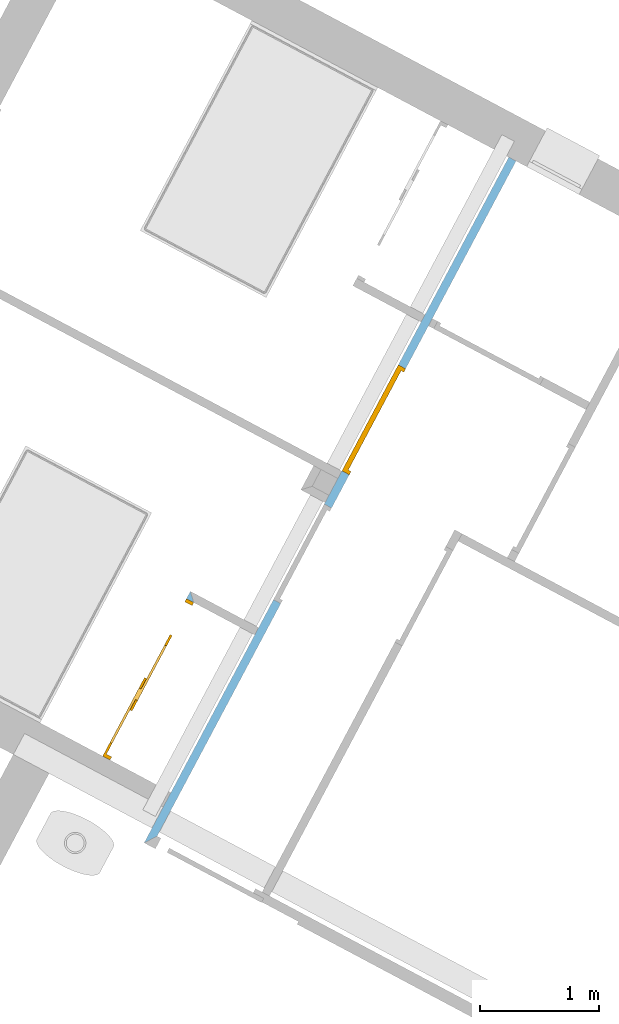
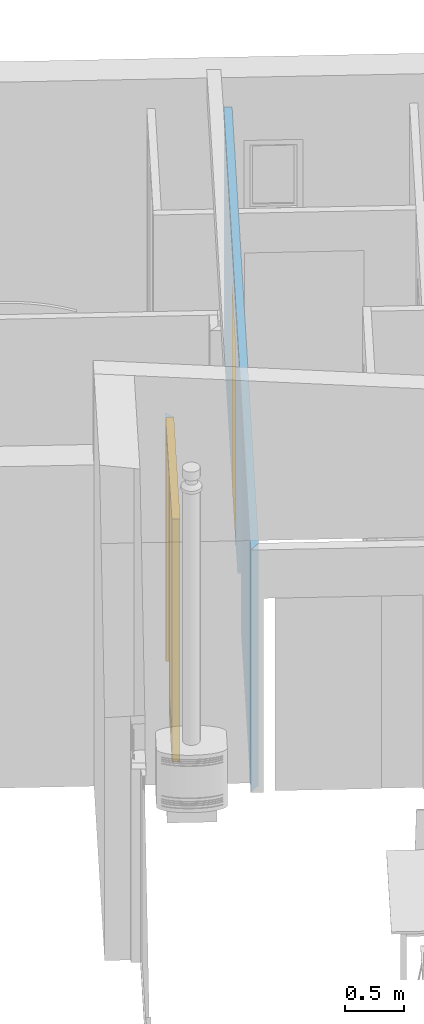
# One storey, part 14 of 27: 2 doors, 3 openings, plus 2 elements that do not belong to this part.
"""IFC2X3 building model written with IfcOpenShell, lengths in metres."""

from ifc_helpers import new_model, entity, si_unit, converted_unit, derived_unit, money_unit, direction, frame, origin_with_axes, origin_2d_with_axis, place, context, subcontext, project, spatial, polyline, rectangle, outline, extrude, open_shell, faceted_brep, surface_model, material, layer, layer_set, layer_usage, type_object, element, fill, save


model = new_model("IFC2X3")

# Units and contexts
model_context = context("Model", 3, precision=1e-05, world=origin_with_axes(), true_north=direction((0.0, 1.0)))
body_context = subcontext(model_context, "Body", "Model", "MODEL_VIEW")
ifc_project = project(units=[si_unit("LENGTHUNIT", "METRE"), si_unit("AREAUNIT", "SQUARE_METRE"), si_unit("VOLUMEUNIT", "CUBIC_METRE"), converted_unit("PLANEANGLEUNIT", "DEGREE", entity("IfcPlaneAngleMeasure", 0.0174532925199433), si_unit("PLANEANGLEUNIT", "RADIAN"), dimensions=[0, 0, 0, 0, 0, 0, 0]), money_unit("CHF"), converted_unit("TIMEUNIT", "Year", entity("IfcTimeMeasure", 31557600.0), si_unit("TIMEUNIT", "SECOND"), dimensions=[0, 0, 1, 0, 0, 0, 0]), si_unit("MASSUNIT", "GRAM", prefix="KILO"), si_unit("THERMODYNAMICTEMPERATUREUNIT", "DEGREE_CELSIUS"), si_unit("LUMINOUSINTENSITYUNIT", "LUMEN"), si_unit("ENERGYUNIT", "JOULE", prefix="MEGA"), derived_unit("THERMALCONDUCTANCEUNIT", [(si_unit("POWERUNIT", "WATT"), 1), (si_unit("LENGTHUNIT", "METRE"), -1), (si_unit("THERMODYNAMICTEMPERATUREUNIT", "KELVIN"), -1)]), derived_unit("SPECIFICHEATCAPACITYUNIT", [(si_unit("ENERGYUNIT", "JOULE"), 1), (si_unit("MASSUNIT", "GRAM", prefix="KILO"), -1), (si_unit("THERMODYNAMICTEMPERATUREUNIT", "KELVIN"), -1)]), derived_unit("MASSDENSITYUNIT", [(si_unit("MASSUNIT", "GRAM", prefix="KILO"), 1), (si_unit("VOLUMEUNIT", "CUBIC_METRE"), -1)])], contexts=[model_context])

# Site, building, storey
site_placement = place(None, frame((0.0, 0.0, 0.0), z_axis=(0.0, 0.0, 1.0), x_axis=(-0.4694715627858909, -0.8829475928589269, 0.0)))
site = spatial("IfcSite", under=ifc_project, at=site_placement, Name="Site", CompositionType="ELEMENT")
building_placement = place(site_placement, origin_with_axes())
building = spatial("IfcBuilding", under=site, at=building_placement, Name="Bâtiment", CompositionType="ELEMENT")
storey_placement = place(building_placement, origin_with_axes())
storey = spatial("IfcBuildingStorey", under=building, at=storey_placement, Name="RDC", CompositionType="ELEMENT", Elevation=0.0)

# Wall, openings, door
ifc_material = material(Name="Isolation 269295175")
ifc_layer = layer(ifc_material, 0.07, ventilated="UNKNOWN")
ifc_layer_set = layer_set([ifc_layer], Name="CLOISON 7 0024849982")
ifc_layer_usage_1 = layer_usage(ifc_layer_set, "AXIS2", "NEGATIVE", 0.0)
wall_type = type_object("IfcWallType", Name="CLOISON 7 0024849982 70", PredefinedType="NOTDEFINED")
wall_1_placement = place(storey_placement, frame((127.4995710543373, -835.8045991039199, 0.0), z_axis=(0.0, 0.0, 1.0), x_axis=(1.0, 0.0, 0.0)))
wall_1 = element("IfcWallStandardCase", 1, at=wall_1_placement, inside=storey, type_object=wall_type, material=ifc_layer_usage_1, Name="Mur-395", context=body_context, shape_type="SweptSolid", body=[
    extrude(outline(polyline([(0.0, -0.07000000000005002), (6.530000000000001, -0.07000000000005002), (6.430000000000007, 0.0), (0.0, 0.0), (0.0, -0.07000000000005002)])), origin_with_axes(), (0.0, 0.0, 1.0), 2.5),
])
opening_1_placement = place(wall_1_placement, frame((3.759272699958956, 0.0, 0.0), z_axis=(0.0, 0.0, 1.0), x_axis=(1.0, 0.0, 0.0)))
element("IfcOpeningElement", 2, at=opening_1_placement, cuts=wall_1, Name="porte 76", context=body_context, shape_type="SweptSolid", body=[
    extrude(rectangle(XDim=0.910000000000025, YDim=2.09, at=origin_2d_with_axis()), frame((0.0, 0.07000000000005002, 1.045), z_axis=(0.0, -1.0, 0.0), x_axis=(-1.0, 0.0, 0.0)), (0.0, 0.0, 1.0), 0.21),
])
opening_2_placement = place(wall_1_placement, frame((2.483017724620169, 0.0, 0.0), z_axis=(0.0, 0.0, 1.0), x_axis=(1.0, 0.0, 0.0)))
opening_2 = element("IfcOpeningElement", 3, at=opening_2_placement, cuts=wall_1, Name="porte 77", context=body_context, shape_type="SweptSolid", body=[
    extrude(rectangle(XDim=1.009999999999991, YDim=2.09, at=origin_2d_with_axis()), frame((0.0, 0.07000000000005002, 1.045), z_axis=(0.0, 1.0, 0.0), x_axis=(1.0, 0.0, 0.0)), (0.0, 0.0, -1.0), 0.21),
])
door_style_1 = type_object("IfcDoorStyle", Name="P_int simple à carreaux 10", ConstructionType="NOTDEFINED", OperationType="SINGLE_SWING_LEFT", ParameterTakesPrecedence=False, Sizeable=False)
door_1_placement = place(opening_2_placement, frame((0.5049999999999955, 0.0, 0.0), z_axis=(0.0, 0.0, 1.0), x_axis=(-1.0, 0.0, 0.0)))
door_1 = element("IfcDoor", 4, at=door_1_placement, inside=storey, type_object=door_style_1, Name="porte 77", OverallHeight=2.09, OverallWidth=1.01, context=body_context, shape_type="Brep", body=[
    faceted_brep([(0.9780000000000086, 0.0260000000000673, 0.0), (0.9780000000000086, 0.0, 0.0), (0.9780000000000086, 0.0, 2.058), (0.9780000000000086, 0.0260000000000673, 2.058), (0.9900000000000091, 0.0260000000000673, 0.0), (0.9900000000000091, 0.07000000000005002, 0.0), (1.009999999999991, 0.07000000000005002, 0.0), (1.009999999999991, 0.0, 0.0), (1.009999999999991, 0.0, 2.058), (0.9900000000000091, 0.0260000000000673, 2.058), (1.009999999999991, 0.07000000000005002, 2.058), (0.9900000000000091, 0.07000000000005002, 2.058)], [[[0, 1, 2, 3]], [[4, 5, 6, 7, 1, 0]], [[2, 1, 7, 8]], [[9, 3, 2, 8, 10, 11]], [[9, 4, 0, 3]], [[11, 5, 4, 9]], [[11, 10, 6, 5]], [[6, 10, 8, 7]]]),
    faceted_brep([(0.01999999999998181, 0.0260000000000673, 2.058), (0.01999999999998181, 0.07000000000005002, 2.058), (0.0, 0.07000000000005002, 2.058), (0.0, 0.0, 2.058), (0.03199999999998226, 0.0, 2.058), (0.03199999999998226, 0.0260000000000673, 2.058), (0.01999999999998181, 0.0260000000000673, 0.0), (0.01999999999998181, 0.07000000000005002, 0.0), (0.0, 0.07000000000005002, 0.0), (0.0, 0.0, 0.0), (0.03199999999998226, 0.0, 0.0), (0.03199999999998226, 0.0260000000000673, 0.0)], [[[0, 1, 2, 3, 4, 5]], [[0, 6, 7, 1]], [[7, 8, 2, 1]], [[2, 8, 9, 3]], [[3, 9, 10, 4]], [[5, 4, 10, 11]], [[5, 11, 6, 0]], [[6, 11, 10, 9, 8, 7]]]),
    faceted_brep([(0.9900000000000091, 0.07000000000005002, 2.07), (0.01999999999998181, 0.07000000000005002, 2.07), (0.01999999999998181, 0.07000000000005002, 2.058), (0.0, 0.07000000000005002, 2.058), (0.0, 0.07000000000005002, 2.09), (1.009999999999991, 0.07000000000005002, 2.09), (1.009999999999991, 0.07000000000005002, 2.058), (0.9900000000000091, 0.07000000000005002, 2.058), (0.9900000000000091, 0.0260000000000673, 2.07), (0.01999999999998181, 0.0260000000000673, 2.07), (0.01999999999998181, 0.0260000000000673, 2.058), (0.03199999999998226, 0.0260000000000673, 2.058), (0.03199999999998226, 0.0, 2.058), (0.0, 0.0, 2.058), (0.0, 0.0, 2.09), (1.009999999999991, 0.0, 2.09), (1.009999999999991, 0.0, 2.058), (0.9900000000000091, 0.0260000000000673, 2.058), (0.9780000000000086, 0.0, 2.058), (0.9780000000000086, 0.0260000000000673, 2.058)], [[[0, 1, 2, 3, 4, 5, 6, 7]], [[0, 8, 9, 1]], [[1, 9, 10, 2]], [[10, 11, 12, 13, 3, 2]], [[4, 3, 13, 14]], [[5, 4, 14, 15]], [[6, 5, 15, 16]], [[17, 7, 6, 16, 18, 19]], [[7, 17, 8, 0]], [[10, 9, 8, 17, 19, 11]], [[19, 18, 12, 11]], [[12, 18, 16, 15, 14, 13]]]),
    faceted_brep([(0.6049999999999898, 0.0260000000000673, 0.0), (0.9900000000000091, 0.0260000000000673, 0.0), (0.9900000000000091, 0.0260000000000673, 2.07), (0.6049999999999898, 0.0260000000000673, 2.07), (0.6049999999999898, 0.07000000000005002, 0.0), (0.9900000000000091, 0.07000000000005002, 0.0), (0.9900000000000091, 0.07000000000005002, 2.07), (0.6049999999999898, 0.07000000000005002, 2.07)], [[[0, 1, 2, 3]], [[4, 5, 1, 0]], [[1, 5, 6, 2]], [[3, 2, 6, 7]], [[7, 4, 0, 3]], [[7, 6, 5, 4]]]),
    faceted_brep([(0.4050000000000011, 0.07000000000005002, 2.07), (0.01999999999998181, 0.07000000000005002, 2.07), (0.01999999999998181, 0.0260000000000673, 2.07), (0.4050000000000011, 0.0260000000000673, 2.07), (0.4050000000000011, 0.07000000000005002, 0.0), (0.01999999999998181, 0.07000000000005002, 0.0), (0.01999999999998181, 0.0260000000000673, 0.0), (0.4050000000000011, 0.0260000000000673, 0.0)], [[[0, 1, 2, 3]], [[4, 5, 1, 0]], [[2, 1, 5, 6]], [[3, 2, 6, 7]], [[7, 4, 0, 3]], [[7, 6, 5, 4]]]),
    faceted_brep([(0.6049999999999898, 0.07000000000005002, 1.87), (0.6049999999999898, 0.07000000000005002, 2.07), (0.6049999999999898, 0.0260000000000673, 2.07), (0.6049999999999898, 0.0260000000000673, 1.87), (0.4050000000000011, 0.07000000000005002, 1.87), (0.4050000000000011, 0.07000000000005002, 2.07), (0.4050000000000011, 0.0260000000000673, 2.07), (0.4050000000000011, 0.0260000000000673, 1.87)], [[[0, 1, 2, 3]], [[0, 4, 5, 1]], [[1, 5, 6, 2]], [[3, 2, 6, 7]], [[4, 0, 3, 7]], [[5, 4, 7, 6]]]),
    faceted_brep([(0.6049999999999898, 0.07000000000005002, 1.67), (0.6049999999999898, 0.07000000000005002, 1.87), (0.6049999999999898, 0.0260000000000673, 1.87), (0.6049999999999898, 0.0260000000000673, 1.67), (0.4050000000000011, 0.07000000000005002, 1.67), (0.4050000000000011, 0.07000000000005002, 1.87), (0.4050000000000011, 0.0260000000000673, 1.87), (0.4050000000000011, 0.0260000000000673, 1.67)], [[[0, 1, 2, 3]], [[0, 4, 5, 1]], [[1, 5, 6, 2]], [[3, 2, 6, 7]], [[4, 0, 3, 7]], [[5, 4, 7, 6]]]),
    faceted_brep([(0.6049999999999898, 0.07000000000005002, 1.47), (0.6049999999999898, 0.07000000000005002, 1.67), (0.6049999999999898, 0.0260000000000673, 1.67), (0.6049999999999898, 0.0260000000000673, 1.47), (0.4050000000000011, 0.07000000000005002, 1.47), (0.4050000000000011, 0.07000000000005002, 1.67), (0.4050000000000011, 0.0260000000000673, 1.67), (0.4050000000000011, 0.0260000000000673, 1.47)], [[[0, 1, 2, 3]], [[0, 4, 5, 1]], [[1, 5, 6, 2]], [[3, 2, 6, 7]], [[4, 0, 3, 7]], [[5, 4, 7, 6]]]),
    faceted_brep([(0.6049999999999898, 0.07000000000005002, 1.27), (0.6049999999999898, 0.07000000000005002, 1.47), (0.6049999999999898, 0.0260000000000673, 1.47), (0.6049999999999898, 0.0260000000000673, 1.27), (0.4050000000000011, 0.07000000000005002, 1.27), (0.4050000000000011, 0.07000000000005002, 1.47), (0.4050000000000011, 0.0260000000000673, 1.47), (0.4050000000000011, 0.0260000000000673, 1.27)], [[[0, 1, 2, 3]], [[0, 4, 5, 1]], [[1, 5, 6, 2]], [[3, 2, 6, 7]], [[4, 0, 3, 7]], [[5, 4, 7, 6]]]),
    faceted_brep([(0.6049999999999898, 0.07000000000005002, 1.07), (0.6049999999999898, 0.07000000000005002, 1.27), (0.6049999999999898, 0.0260000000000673, 1.27), (0.6049999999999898, 0.0260000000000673, 1.07), (0.4050000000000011, 0.07000000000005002, 1.07), (0.4050000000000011, 0.07000000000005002, 1.27), (0.4050000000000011, 0.0260000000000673, 1.27), (0.4050000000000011, 0.0260000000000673, 1.07)], [[[0, 1, 2, 3]], [[0, 4, 5, 1]], [[1, 5, 6, 2]], [[3, 2, 6, 7]], [[4, 0, 3, 7]], [[5, 4, 7, 6]]]),
    faceted_brep([(0.6049999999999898, 0.07000000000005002, 0.8700000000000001), (0.6049999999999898, 0.07000000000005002, 1.07), (0.6049999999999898, 0.0260000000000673, 1.07), (0.6049999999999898, 0.0260000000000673, 0.8700000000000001), (0.4050000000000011, 0.07000000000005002, 0.8700000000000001), (0.4050000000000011, 0.07000000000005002, 1.07), (0.4050000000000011, 0.0260000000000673, 1.07), (0.4050000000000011, 0.0260000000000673, 0.8700000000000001)], [[[0, 1, 2, 3]], [[0, 4, 5, 1]], [[1, 5, 6, 2]], [[3, 2, 6, 7]], [[4, 0, 3, 7]], [[5, 4, 7, 6]]]),
    faceted_brep([(0.6049999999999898, 0.07000000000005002, 0.6700000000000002), (0.6049999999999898, 0.07000000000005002, 0.8700000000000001), (0.6049999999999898, 0.0260000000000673, 0.8700000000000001), (0.6049999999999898, 0.0260000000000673, 0.6700000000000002), (0.4050000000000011, 0.07000000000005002, 0.6700000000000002), (0.4050000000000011, 0.07000000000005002, 0.8700000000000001), (0.4050000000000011, 0.0260000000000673, 0.8700000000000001), (0.4050000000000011, 0.0260000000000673, 0.6700000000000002)], [[[0, 1, 2, 3]], [[0, 4, 5, 1]], [[1, 5, 6, 2]], [[3, 2, 6, 7]], [[4, 0, 3, 7]], [[5, 4, 7, 6]]]),
    faceted_brep([(0.6049999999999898, 0.07000000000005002, 0.4700000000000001), (0.6049999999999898, 0.07000000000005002, 0.6700000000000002), (0.6049999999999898, 0.0260000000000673, 0.6700000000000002), (0.6049999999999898, 0.0260000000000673, 0.4700000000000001), (0.4050000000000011, 0.07000000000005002, 0.4700000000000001), (0.4050000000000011, 0.07000000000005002, 0.6700000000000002), (0.4050000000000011, 0.0260000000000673, 0.6700000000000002), (0.4050000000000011, 0.0260000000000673, 0.4700000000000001)], [[[0, 1, 2, 3]], [[0, 4, 5, 1]], [[1, 5, 6, 2]], [[3, 2, 6, 7]], [[4, 0, 3, 7]], [[5, 4, 7, 6]]]),
    faceted_brep([(0.6049999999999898, 0.07000000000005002, 0.2700000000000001), (0.6049999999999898, 0.07000000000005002, 0.4700000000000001), (0.6049999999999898, 0.0260000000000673, 0.4700000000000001), (0.6049999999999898, 0.0260000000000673, 0.2700000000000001), (0.4050000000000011, 0.07000000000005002, 0.2700000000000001), (0.4050000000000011, 0.07000000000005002, 0.4700000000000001), (0.4050000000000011, 0.0260000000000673, 0.4700000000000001), (0.4050000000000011, 0.0260000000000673, 0.2700000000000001)], [[[0, 1, 2, 3]], [[0, 4, 5, 1]], [[1, 5, 6, 2]], [[3, 2, 6, 7]], [[4, 0, 3, 7]], [[5, 4, 7, 6]]]),
    faceted_brep([(0.6049999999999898, 0.07000000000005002, 0.07000000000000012), (0.6049999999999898, 0.07000000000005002, 0.2700000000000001), (0.6049999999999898, 0.0260000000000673, 0.2700000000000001), (0.6049999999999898, 0.0260000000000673, 0.07000000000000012), (0.4050000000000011, 0.07000000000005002, 0.07000000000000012), (0.4050000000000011, 0.07000000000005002, 0.2700000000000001), (0.4050000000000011, 0.0260000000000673, 0.2700000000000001), (0.4050000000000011, 0.0260000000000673, 0.07000000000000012)], [[[0, 1, 2, 3]], [[0, 4, 5, 1]], [[1, 5, 6, 2]], [[3, 2, 6, 7]], [[4, 0, 3, 7]], [[5, 4, 7, 6]]]),
    faceted_brep([(0.6049999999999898, 0.0260000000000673, 0.0), (0.6049999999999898, 0.0260000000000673, 0.07000000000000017), (0.4050000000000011, 0.0260000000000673, 0.07000000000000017), (0.4050000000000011, 0.0260000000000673, 0.0), (0.6049999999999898, 0.07000000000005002, 0.0), (0.6049999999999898, 0.07000000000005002, 0.07000000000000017), (0.4050000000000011, 0.07000000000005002, 0.07000000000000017), (0.4050000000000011, 0.07000000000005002, 0.0)], [[[0, 1, 2, 3]], [[4, 5, 1, 0]], [[1, 5, 6, 2]], [[3, 2, 6, 7]], [[7, 4, 0, 3]], [[7, 6, 5, 4]]]),
])
fill(opening_2, door_1)

# Wall, opening, door
ifc_layer_usage_2 = layer_usage(ifc_layer_set, "AXIS2", "NEGATIVE", 0.0)
wall_2_placement = place(storey_placement, frame((132.0495710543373, -836.4545991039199, 0.0), z_axis=(0.0, 0.0, 1.0), x_axis=(1.0, 0.0, 0.0)))
wall_2 = element("IfcWallStandardCase", 5, at=wall_2_placement, inside=storey, type_object=wall_type, material=ifc_layer_usage_2, Name="Mur-396", context=body_context, shape_type="SweptSolid", body=[
    extrude(outline(polyline([(-0.06999999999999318, -0.07000000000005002), (1.5, -0.07000000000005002), (1.5, 0.0), (0.0, 0.0), (-0.06999999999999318, -0.07000000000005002)])), origin_with_axes(), (0.0, 0.0, 1.0), 2.5),
])
opening_3_placement = place(wall_2_placement, frame((0.75, 0.0, 0.0), z_axis=(0.0, 0.0, 1.0), x_axis=(1.0, 0.0, 0.0)))
opening_3 = element("IfcOpeningElement", 6, at=opening_3_placement, cuts=wall_2, Name="porte 77", context=body_context, shape_type="SweptSolid", body=[
    extrude(rectangle(XDim=1.5, YDim=2.5, at=origin_2d_with_axis()), frame((0.0, -0.07000000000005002, 1.25), z_axis=(0.0, 1.0, 0.0), x_axis=(1.0, 0.0, 0.0)), (0.0, 0.0, 1.0), 0.21),
])
door_style_2 = type_object("IfcDoorStyle", Name="P_double coul 1 10", ConstructionType="NOTDEFINED", OperationType="SLIDING_TO_RIGHT", ParameterTakesPrecedence=False, Sizeable=False)
door_2_placement = place(opening_3_placement, frame((-0.7500000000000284, 0.0, 0.0), z_axis=(0.0, 0.0, 1.0), x_axis=(1.0, 0.0, 0.0)))
door_2 = element("IfcDoor", 7, at=door_2_placement, inside=storey, type_object=door_style_2, Name="porte 77", OverallHeight=2.5, OverallWidth=1.5, context=body_context, shape_type="SurfaceModel", body=[
    faceted_brep([(0.03000000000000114, -0.07000000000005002, 0.0), (0.03000000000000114, 0.0, 0.0), (0.03000000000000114, 0.0, 2.47), (0.03000000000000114, -0.07000000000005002, 2.47), (0.0, -0.07000000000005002, 0.0), (0.0, 0.0, 0.0), (0.0, 0.0, 2.47), (0.0, -0.07000000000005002, 2.47)], [[[0, 1, 2, 3]], [[4, 5, 1, 0]], [[1, 5, 6, 2]], [[3, 2, 6, 7]], [[0, 3, 7, 4]], [[7, 6, 5, 4]]]),
    faceted_brep([(1.5, -0.07000000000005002, 0.0), (1.5, 0.0, 0.0), (1.5, 0.0, 2.47), (1.5, -0.07000000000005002, 2.47), (1.469999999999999, -0.07000000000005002, 0.0), (1.469999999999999, 0.0, 0.0), (1.469999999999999, 0.0, 2.47), (1.469999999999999, -0.07000000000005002, 2.47)], [[[0, 1, 2, 3]], [[4, 5, 1, 0]], [[1, 5, 6, 2]], [[3, 2, 6, 7]], [[0, 3, 7, 4]], [[7, 6, 5, 4]]]),
    faceted_brep([(0.0, -0.07000000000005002, 2.5), (0.0, 0.0, 2.5), (0.0, 0.0, 2.47), (0.0, -0.07000000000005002, 2.47), (1.5, -0.07000000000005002, 2.5), (1.5, 0.0, 2.5), (1.5, 0.0, 2.47), (1.469999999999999, 0.0, 2.47), (0.03000000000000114, 0.0, 2.47), (0.03000000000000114, -0.07000000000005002, 2.47), (1.469999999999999, -0.07000000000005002, 2.47), (1.5, -0.07000000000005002, 2.47)], [[[0, 1, 2, 3]], [[4, 5, 1, 0]], [[1, 5, 6, 7, 8, 2]], [[3, 2, 8, 9]], [[0, 3, 9, 10, 11, 4]], [[11, 6, 5, 4]], [[10, 7, 6, 11]], [[9, 8, 7, 10]]]),
    faceted_brep([(1.469999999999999, -0.07000000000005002, 0.2), (1.370000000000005, -0.07000000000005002, 0.2), (1.370000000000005, -0.04999999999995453, 0.2), (1.469999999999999, -0.04999999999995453, 0.2), (1.469999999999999, -0.07000000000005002, 2.37), (1.370000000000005, -0.07000000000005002, 2.37), (1.370000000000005, -0.04999999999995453, 2.37), (1.469999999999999, -0.04999999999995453, 2.37)], [[[0, 1, 2, 3]], [[0, 4, 5, 1]], [[1, 5, 6, 2]], [[3, 2, 6, 7]], [[4, 0, 3, 7]], [[5, 4, 7, 6]]]),
    faceted_brep([(0.75, -0.07000000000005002, 0.2), (0.75, -0.07000000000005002, 2.37), (0.75, -0.04999999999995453, 2.37), (0.75, -0.04999999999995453, 0.2), (0.8499999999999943, -0.07000000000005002, 0.2), (0.8499999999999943, -0.07000000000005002, 2.37), (0.8499999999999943, -0.04999999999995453, 2.37), (0.8499999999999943, -0.04999999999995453, 0.2)], [[[0, 1, 2, 3]], [[0, 4, 5, 1]], [[1, 5, 6, 2]], [[3, 2, 6, 7]], [[4, 0, 3, 7]], [[5, 4, 7, 6]]]),
    faceted_brep([(1.469999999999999, -0.07000000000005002, 0.0), (0.75, -0.07000000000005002, 0.0), (0.75, -0.04999999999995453, 0.0), (1.469999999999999, -0.04999999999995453, 0.0), (1.469999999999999, -0.07000000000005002, 0.2), (1.370000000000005, -0.07000000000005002, 0.2), (0.8499999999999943, -0.07000000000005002, 0.2), (0.75, -0.07000000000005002, 0.2), (0.75, -0.04999999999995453, 0.2), (0.8499999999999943, -0.04999999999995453, 0.2), (1.370000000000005, -0.04999999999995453, 0.2), (1.469999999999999, -0.04999999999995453, 0.2)], [[[0, 1, 2, 3]], [[0, 4, 5, 6, 7, 1]], [[1, 7, 8, 2]], [[3, 2, 8, 9, 10, 11]], [[4, 0, 3, 11]], [[5, 4, 11, 10]], [[6, 5, 10, 9]], [[7, 6, 9, 8]]]),
    faceted_brep([(1.469999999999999, -0.07000000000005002, 2.47), (1.469999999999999, -0.07000000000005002, 2.37), (1.469999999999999, -0.04999999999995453, 2.37), (1.469999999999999, -0.04999999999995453, 2.47), (0.75, -0.07000000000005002, 2.47), (0.75, -0.07000000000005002, 2.37), (0.8499999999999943, -0.07000000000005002, 2.37), (1.370000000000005, -0.07000000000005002, 2.37), (1.370000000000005, -0.04999999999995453, 2.37), (0.8499999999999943, -0.04999999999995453, 2.37), (0.75, -0.04999999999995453, 2.37), (0.75, -0.04999999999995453, 2.47)], [[[0, 1, 2, 3]], [[0, 4, 5, 6, 7, 1]], [[1, 7, 8, 2]], [[3, 2, 8, 9, 10, 11]], [[4, 0, 3, 11]], [[5, 4, 11, 10]], [[6, 5, 10, 9]], [[7, 6, 9, 8]]]),
    surface_model("IfcShellBasedSurfaceModel", [(1.370000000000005, -0.06600000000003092, 0.2), (1.370000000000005, -0.06600000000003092, 2.37), (0.8499999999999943, -0.06600000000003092, 2.37), (0.8499999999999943, -0.06600000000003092, 0.2)], [open_shell([[[0, 1, 2, 3]]])]),
    surface_model("IfcShellBasedSurfaceModel", [(1.370000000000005, -0.05399999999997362, 0.2), (0.8499999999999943, -0.05399999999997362, 0.2), (0.8499999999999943, -0.05399999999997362, 2.37), (1.370000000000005, -0.05399999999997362, 2.37)], [open_shell([[[0, 1, 2, 3]]])]),
    faceted_brep([(1.050000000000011, -0.04999999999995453, 0.2), (0.9499999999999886, -0.04999999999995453, 0.2), (0.9499999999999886, -0.02999999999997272, 0.2), (1.050000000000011, -0.02999999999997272, 0.2), (1.050000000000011, -0.04999999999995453, 2.37), (0.9499999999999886, -0.04999999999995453, 2.37), (0.9499999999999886, -0.02999999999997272, 2.37), (1.050000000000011, -0.02999999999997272, 2.37)], [[[0, 1, 2, 3]], [[0, 4, 5, 1]], [[1, 5, 6, 2]], [[3, 2, 6, 7]], [[4, 0, 3, 7]], [[5, 4, 7, 6]]]),
    faceted_brep([(0.3300000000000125, -0.04999999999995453, 0.2), (0.3300000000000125, -0.04999999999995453, 2.37), (0.3300000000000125, -0.02999999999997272, 2.37), (0.3300000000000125, -0.02999999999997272, 0.2), (0.4300000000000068, -0.04999999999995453, 0.2), (0.4300000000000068, -0.04999999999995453, 2.37), (0.4300000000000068, -0.02999999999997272, 2.37), (0.4300000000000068, -0.02999999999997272, 0.2)], [[[0, 1, 2, 3]], [[0, 4, 5, 1]], [[1, 5, 6, 2]], [[3, 2, 6, 7]], [[4, 0, 3, 7]], [[5, 4, 7, 6]]]),
    faceted_brep([(1.050000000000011, -0.04999999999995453, 0.0), (0.3300000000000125, -0.04999999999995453, 0.0), (0.3300000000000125, -0.02999999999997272, 0.0), (1.050000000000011, -0.02999999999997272, 0.0), (1.050000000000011, -0.04999999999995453, 0.2), (0.9499999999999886, -0.04999999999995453, 0.2), (0.4300000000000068, -0.04999999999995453, 0.2), (0.3300000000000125, -0.04999999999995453, 0.2), (0.3300000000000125, -0.02999999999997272, 0.2), (0.4300000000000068, -0.02999999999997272, 0.2), (0.9499999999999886, -0.02999999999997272, 0.2), (1.050000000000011, -0.02999999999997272, 0.2)], [[[0, 1, 2, 3]], [[0, 4, 5, 6, 7, 1]], [[1, 7, 8, 2]], [[3, 2, 8, 9, 10, 11]], [[4, 0, 3, 11]], [[5, 4, 11, 10]], [[6, 5, 10, 9]], [[7, 6, 9, 8]]]),
    faceted_brep([(1.050000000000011, -0.04999999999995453, 2.47), (1.050000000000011, -0.04999999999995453, 2.37), (1.050000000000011, -0.02999999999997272, 2.37), (1.050000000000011, -0.02999999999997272, 2.47), (0.3300000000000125, -0.04999999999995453, 2.47), (0.3300000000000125, -0.04999999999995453, 2.37), (0.4300000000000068, -0.04999999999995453, 2.37), (0.9499999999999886, -0.04999999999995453, 2.37), (0.9499999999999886, -0.02999999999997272, 2.37), (0.4300000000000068, -0.02999999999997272, 2.37), (0.3300000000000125, -0.02999999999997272, 2.37), (0.3300000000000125, -0.02999999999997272, 2.47)], [[[0, 1, 2, 3]], [[0, 4, 5, 6, 7, 1]], [[1, 7, 8, 2]], [[3, 2, 8, 9, 10, 11]], [[4, 0, 3, 11]], [[5, 4, 11, 10]], [[6, 5, 10, 9]], [[7, 6, 9, 8]]]),
    surface_model("IfcShellBasedSurfaceModel", [(0.9499999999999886, -0.04600000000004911, 0.2), (0.9499999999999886, -0.04600000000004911, 2.37), (0.4300000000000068, -0.04600000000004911, 2.37), (0.4300000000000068, -0.04600000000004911, 0.2)], [open_shell([[[0, 1, 2, 3]]])]),
    surface_model("IfcShellBasedSurfaceModel", [(0.9499999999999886, -0.03399999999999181, 0.2), (0.4300000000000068, -0.03399999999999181, 0.2), (0.4300000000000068, -0.03399999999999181, 2.37), (0.9499999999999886, -0.03399999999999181, 2.37)], [open_shell([[[0, 1, 2, 3]]])]),
])
fill(opening_3, door_2)

save(model, "model.ifc")
